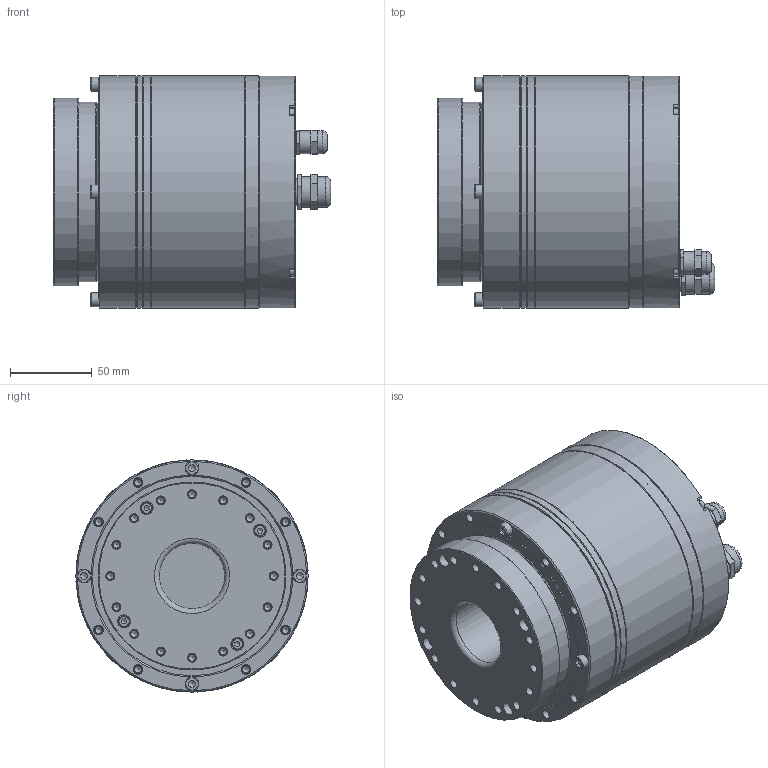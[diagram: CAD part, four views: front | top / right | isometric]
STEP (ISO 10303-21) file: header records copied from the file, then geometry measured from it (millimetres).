
FILE_DESCRIPTION( ('This file contains a STEP AP42 implementation' ,'as created by ZW3D STEP Interface translator.') ,'2;1' );
FILE_NAME( 'MIS32B壽誹耀郪.stp' ,'24 615.1845 0', (''), ('ZWCAD Software Co.'), 'Version 1.0', 'ZW3D to STEP translator', '' );
FILE_SCHEMA(('AUTOMOTIVE_DESIGN { 1 0 10303 214 1 1 1 1 }'));
Length unit declared in the file: millimetre
Products named in the file (2): 0; MIS32B壽誹耀郪
Bounding box: 169.5 x 142 x 142 mm (x, y, z)
Volume: 698356.8 mm3; surface area: 361598.6 mm2
Topology: 74 solids, 76 shells, 1421 faces, 3630 edges, 2454 vertices
Faces by surface type: plane 467, cone 464, cylinder 373, torus 86, sphere 24, bspline 7
Full cylindrical faces by diameter (mm): 2.5 x20, 3 x24, 3.2 x12, 3.3 x24, 3.838 x8, 4 x8, 4.2 x40, 4.3 x4, 4.5 x20, 5 x8, 5.5 x80, 6.5 x8, 7 x12, 7.5 x8, 8 x18, 8.5 x4, 12 x2, 14 x2, 16 x2, 19 x2, 40 x2, 44 x1, 45 x3, 46 x1, 48.538 x4, 49.238 x2, 55 x2, 59.642 x2, 60.542 x1, 66.458 x1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
Entity records: 45329 total; most frequent: CARTESIAN_POINT 8351, DIRECTION 8139, ORIENTED_EDGE 6490, AXIS2_PLACEMENT_3D 3414, EDGE_CURVE 3245, VERTEX_POINT 2131, CIRCLE 1999, EDGE_LOOP 1852
